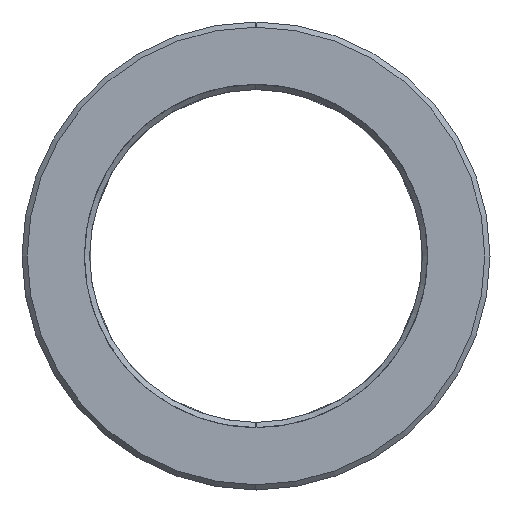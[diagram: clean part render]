
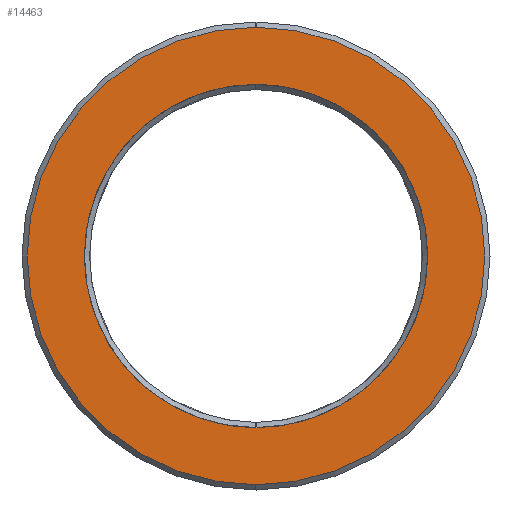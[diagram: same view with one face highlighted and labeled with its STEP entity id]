
A CAD part, left-side view. The second image highlights one B-rep face of the part: STEP entity #14463.
In plain terms, the highlighted planar face has unit normal (1, 0, 0).
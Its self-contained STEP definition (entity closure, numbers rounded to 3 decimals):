
#14380=CARTESIAN_POINT('Axis2P3D Location',(0.,0.,0.)) ;
#14385=CARTESIAN_POINT('Axis2P3D Location',(0.,0.,0.)) ;
#14389=CARTESIAN_POINT('Vertex',(0.,0.,-22.)) ;
#14391=CARTESIAN_POINT('Vertex',(0.,0.,22.)) ;
#14394=CARTESIAN_POINT('Axis2P3D Location',(0.,0.,0.)) ;
#14404=CARTESIAN_POINT('Control Point',(0.,0.,16.5)) ;
#14405=CARTESIAN_POINT('Control Point',(0.,1.592,16.5)) ;
#14406=CARTESIAN_POINT('Control Point',(0.,3.184,16.308)) ;
#14407=CARTESIAN_POINT('Control Point',(0.,4.745,15.924)) ;
#14408=CARTESIAN_POINT('Control Point',(0.,7.744,14.787)) ;
#14409=CARTESIAN_POINT('Control Point',(0.,10.386,12.97)) ;
#14410=CARTESIAN_POINT('Control Point',(0.,11.591,11.905)) ;
#14411=CARTESIAN_POINT('Control Point',(0.,13.72,9.507)) ;
#14412=CARTESIAN_POINT('Control Point',(0.,15.218,6.671)) ;
#14413=CARTESIAN_POINT('Control Point',(0.,15.791,5.169)) ;
#14414=CARTESIAN_POINT('Control Point',(0.,16.565,2.057)) ;
#14415=CARTESIAN_POINT('Control Point',(0.,16.576,-1.15)) ;
#14416=CARTESIAN_POINT('Control Point',(0.,16.387,-2.747)) ;
#14417=CARTESIAN_POINT('Control Point',(0.,15.629,-5.863)) ;
#14418=CARTESIAN_POINT('Control Point',(0.,14.151,-8.709)) ;
#14419=CARTESIAN_POINT('Control Point',(0.,13.243,-10.036)) ;
#14420=CARTESIAN_POINT('Control Point',(0.,11.125,-12.444)) ;
#14421=CARTESIAN_POINT('Control Point',(0.,8.496,-14.28)) ;
#14422=CARTESIAN_POINT('Control Point',(0.,7.076,-15.034)) ;
#14423=CARTESIAN_POINT('Control Point',(0.,4.813,-15.904)) ;
#14424=CARTESIAN_POINT('Control Point',(0.,2.442,-16.349)) ;
#14425=CARTESIAN_POINT('Control Point',(0.,1.631,-16.45)) ;
#14426=CARTESIAN_POINT('Control Point',(0.,0.815,-16.5)) ;
#14427=CARTESIAN_POINT('Control Point',(0.,0.,-16.5)) ;
#14428=CARTESIAN_POINT('Vertex',(0.,0.,16.5)) ;
#14430=CARTESIAN_POINT('Vertex',(0.,0.,-16.5)) ;
#14434=CARTESIAN_POINT('Control Point',(0.,0.,-16.5)) ;
#14435=CARTESIAN_POINT('Control Point',(0.,-1.592,-16.5)) ;
#14436=CARTESIAN_POINT('Control Point',(0.,-3.184,-16.308)) ;
#14437=CARTESIAN_POINT('Control Point',(0.,-4.745,-15.924)) ;
#14438=CARTESIAN_POINT('Control Point',(0.,-7.744,-14.787)) ;
#14439=CARTESIAN_POINT('Control Point',(0.,-10.386,-12.97)) ;
#14440=CARTESIAN_POINT('Control Point',(0.,-11.591,-11.905)) ;
#14441=CARTESIAN_POINT('Control Point',(0.,-13.72,-9.507)) ;
#14442=CARTESIAN_POINT('Control Point',(0.,-15.218,-6.671)) ;
#14443=CARTESIAN_POINT('Control Point',(0.,-15.791,-5.169)) ;
#14444=CARTESIAN_POINT('Control Point',(0.,-16.565,-2.057)) ;
#14445=CARTESIAN_POINT('Control Point',(0.,-16.576,1.15)) ;
#14446=CARTESIAN_POINT('Control Point',(0.,-16.387,2.747)) ;
#14447=CARTESIAN_POINT('Control Point',(0.,-15.629,5.863)) ;
#14448=CARTESIAN_POINT('Control Point',(0.,-14.151,8.709)) ;
#14449=CARTESIAN_POINT('Control Point',(0.,-13.243,10.036)) ;
#14450=CARTESIAN_POINT('Control Point',(0.,-11.125,12.444)) ;
#14451=CARTESIAN_POINT('Control Point',(0.,-8.496,14.28)) ;
#14452=CARTESIAN_POINT('Control Point',(0.,-7.076,15.034)) ;
#14453=CARTESIAN_POINT('Control Point',(0.,-4.813,15.904)) ;
#14454=CARTESIAN_POINT('Control Point',(0.,-2.442,16.349)) ;
#14455=CARTESIAN_POINT('Control Point',(0.,-1.631,16.45)) ;
#14456=CARTESIAN_POINT('Control Point',(0.,-0.815,16.5)) ;
#14457=CARTESIAN_POINT('Control Point',(0.,0.,16.5)) ;
#14381=DIRECTION('Axis2P3D Direction',(1.,0.,0.)) ;
#14382=DIRECTION('Axis2P3D XDirection',(0.,1.,0.)) ;
#14386=DIRECTION('Axis2P3D Direction',(1.,0.,0.)) ;
#14395=DIRECTION('Axis2P3D Direction',(1.,0.,0.)) ;
#14383=AXIS2_PLACEMENT_3D('Plane Axis2P3D',#14380,#14381,#14382) ;
#14387=AXIS2_PLACEMENT_3D('Circle Axis2P3D',#14385,#14386,$) ;
#14396=AXIS2_PLACEMENT_3D('Circle Axis2P3D',#14394,#14395,$) ;
#14400=ORIENTED_EDGE('',*,*,#14393,.T.) ;
#14401=ORIENTED_EDGE('',*,*,#14398,.T.) ;
#14460=ORIENTED_EDGE('',*,*,#14432,.T.) ;
#14461=ORIENTED_EDGE('',*,*,#14458,.T.) ;
#14462=FACE_BOUND('',#14459,.T.) ;
#14463=ADVANCED_FACE('MANIFOLD_SOLID_BREP #8155',(#14402,#14462),#14384,.T.) ;
#14403=B_SPLINE_CURVE_WITH_KNOTS('',5,(#14404,#14405,#14406,#14407,#14408,#14409,#14410,#14411,#14412,#14413,#14414,#14415,#14416,#14417,#14418,#14419,#14420,#14421,#14422,#14423,#14424,#14425,#14426,#14427),.UNSPECIFIED.,.F.,.U.,(6,3,3,3,3,3,3,6),(0.,11.257,22.514,33.771,45.028,56.284,67.541,73.307),.UNSPECIFIED.) ;
#14433=B_SPLINE_CURVE_WITH_KNOTS('',5,(#14434,#14435,#14436,#14437,#14438,#14439,#14440,#14441,#14442,#14443,#14444,#14445,#14446,#14447,#14448,#14449,#14450,#14451,#14452,#14453,#14454,#14455,#14456,#14457),.UNSPECIFIED.,.F.,.U.,(6,3,3,3,3,3,3,6),(0.,11.257,22.514,33.771,45.028,56.284,67.541,73.307),.UNSPECIFIED.) ;
#14388=CIRCLE('generated circle',#14387,22.) ;
#14397=CIRCLE('generated circle',#14396,22.) ;
#14393=EDGE_CURVE('',#14390,#14392,#14388,.T.) ;
#14398=EDGE_CURVE('',#14392,#14390,#14397,.T.) ;
#14432=EDGE_CURVE('',#14429,#14431,#14403,.T.) ;
#14458=EDGE_CURVE('',#14431,#14429,#14433,.T.) ;
#14399=EDGE_LOOP('',(#14400,#14401)) ;
#14459=EDGE_LOOP('',(#14460,#14461)) ;
#14402=FACE_OUTER_BOUND('',#14399,.T.) ;
#14384=PLANE('Plane',#14383) ;
#14390=VERTEX_POINT('',#14389) ;
#14392=VERTEX_POINT('',#14391) ;
#14429=VERTEX_POINT('',#14428) ;
#14431=VERTEX_POINT('',#14430) ;
